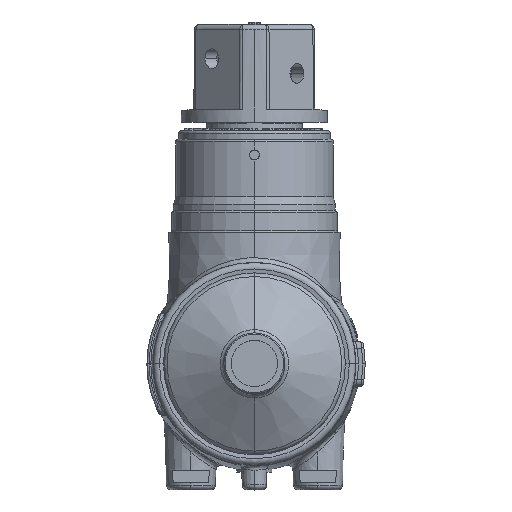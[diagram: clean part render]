
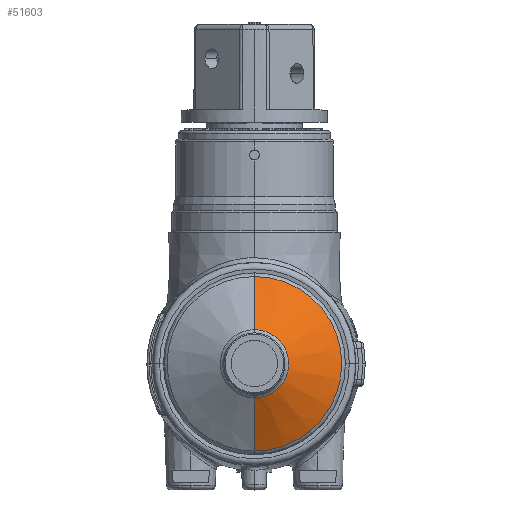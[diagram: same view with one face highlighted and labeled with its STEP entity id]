
A CAD part, top view. The second image highlights one B-rep face of the part: STEP entity #51603.
In plain terms, the highlighted conical face has half-angle 60 degrees and reference radius 12.5 mm.
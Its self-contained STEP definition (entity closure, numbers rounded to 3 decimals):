
#6168 = DIRECTION ( 'NONE',  ( 0., 0.866, -0.5 ) ) ;
#6804 = CARTESIAN_POINT ( 'NONE',  ( -23.664, -5.038, 56.466 ) ) ;
#8613 = EDGE_LOOP ( 'NONE', ( #49205, #14752, #50209, #26367 ) ) ;
#10618 = VERTEX_POINT ( 'NONE', #32213 ) ;
#11812 = VERTEX_POINT ( 'NONE', #57737 ) ;
#14408 = AXIS2_PLACEMENT_3D ( 'NONE', #30039, #38737, #15615 ) ;
#14533 = VERTEX_POINT ( 'NONE', #17297 ) ;
#14752 = ORIENTED_EDGE ( 'NONE', *, *, #31658, .T. ) ;
#15615 = DIRECTION ( 'NONE',  ( 0., -1., 0. ) ) ;
#17297 = CARTESIAN_POINT ( 'NONE',  ( -23.664, 8.962, 69.023 ) ) ;
#18570 = AXIS2_PLACEMENT_3D ( 'NONE', #35816, #36691, #59209 ) ;
#18808 = AXIS2_PLACEMENT_3D ( 'NONE', #6804, #44568, #29617 ) ;
#19390 = CARTESIAN_POINT ( 'NONE',  ( -23.664, 7.462, 69.889 ) ) ;
#19541 = CIRCLE ( 'NONE', #18570, 14. ) ;
#21048 = CARTESIAN_POINT ( 'NONE',  ( -23.664, -17.538, 69.889 ) ) ;
#21938 = DIRECTION ( 'NONE',  ( 0., -0.866, -0.5 ) ) ;
#26367 = ORIENTED_EDGE ( 'NONE', *, *, #39656, .T. ) ;
#28843 = FACE_OUTER_BOUND ( 'NONE', #8613, .T. ) ;
#29617 = DIRECTION ( 'NONE',  ( 0., 1., 0. ) ) ;
#30039 = CARTESIAN_POINT ( 'NONE',  ( -23.664, -5.038, 69.889 ) ) ;
#31658 = EDGE_CURVE ( 'NONE', #14533, #10618, #19541, .T. ) ;
#32213 = CARTESIAN_POINT ( 'NONE',  ( -23.664, -19.038, 69.023 ) ) ;
#32609 = CONICAL_SURFACE ( 'NONE', #14408, 12.5, 1.047 ) ;
#35816 = CARTESIAN_POINT ( 'NONE',  ( -23.664, -5.038, 69.023 ) ) ;
#36691 = DIRECTION ( 'NONE',  ( 0., 0., -1. ) ) ;
#37600 = EDGE_CURVE ( 'NONE', #14533, #11812, #56021, .T. ) ;
#38737 = DIRECTION ( 'NONE',  ( 0., 0., -1. ) ) ;
#39656 = EDGE_CURVE ( 'NONE', #42084, #11812, #54338, .T. ) ;
#42084 = VERTEX_POINT ( 'NONE', #57962 ) ;
#43883 = LINE ( 'NONE', #21048, #50676 ) ;
#44249 = EDGE_CURVE ( 'NONE', #10618, #42084, #43883, .T. ) ;
#44568 = DIRECTION ( 'NONE',  ( 0., 0., 1. ) ) ;
#46579 = VECTOR ( 'NONE', #6168, 1000. ) ;
#49205 = ORIENTED_EDGE ( 'NONE', *, *, #37600, .F. ) ;
#50209 = ORIENTED_EDGE ( 'NONE', *, *, #44249, .T. ) ;
#50676 = VECTOR ( 'NONE', #21938, 1000. ) ;
#51603 = ADVANCED_FACE ( 'NONE', ( #28843 ), #32609, .T. ) ;
#54338 = CIRCLE ( 'NONE', #18808, 35.75 ) ;
#56021 = LINE ( 'NONE', #19390, #46579 ) ;
#57737 = CARTESIAN_POINT ( 'NONE',  ( -23.664, 30.712, 56.466 ) ) ;
#57962 = CARTESIAN_POINT ( 'NONE',  ( -23.664, -40.788, 56.466 ) ) ;
#59209 = DIRECTION ( 'NONE',  ( 0., -1., 0. ) ) ;
